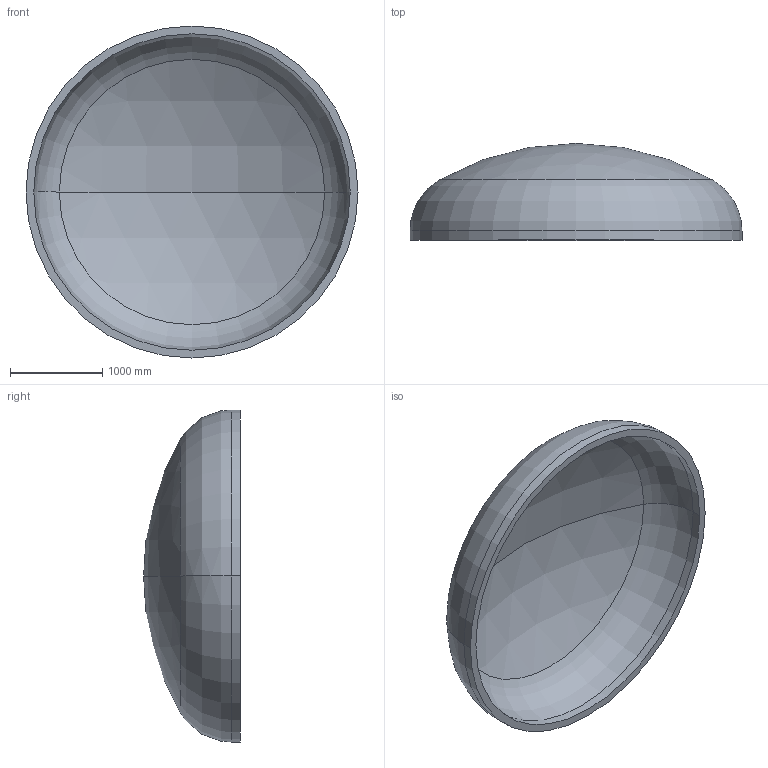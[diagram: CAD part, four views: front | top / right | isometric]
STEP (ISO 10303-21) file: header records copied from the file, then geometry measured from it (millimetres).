
FILE_DESCRIPTION (( 'STEP AP203' ), '1' );
FILE_NAME ('DIN 28013 Korbbogenform_-_Boden DIN 28013 - 3600 x 100 - I - s=84.step', '2016-07-01T20:43:30', ( '' ), ( '' ), 'SwSTEP 2.0', 'SolidWorks 2013', '' );
FILE_SCHEMA (( 'CONFIG_CONTROL_DESIGN' ));
Length unit declared in the file: millimetre
Products named in the file (1): DIN 28013 Korbbogenform_-_Boden DIN 28013 - 3600 x 100 - I - s=84
Bounding box: 3600 x 1049.63 x 3600 mm (x, y, z)
Volume: 1241480030.9 mm3; surface area: 30501666.7 mm2
Topology: 1 solids, 1 shells, 13 faces, 24 edges, 14 vertices
Faces by surface type: torus 4, cylinder 4, sphere 4, plane 1
Entity records: 407 total; most frequent: DIRECTION 72, CARTESIAN_POINT 52, ORIENTED_EDGE 48, AXIS2_PLACEMENT_3D 34, EDGE_CURVE 24, CIRCLE 20, EDGE_LOOP 14, VERTEX_POINT 14
